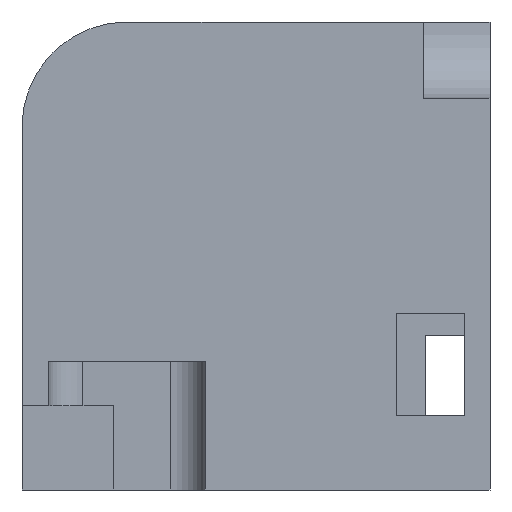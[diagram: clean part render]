
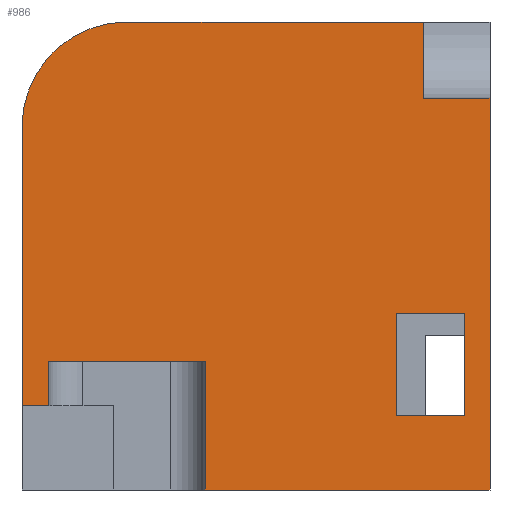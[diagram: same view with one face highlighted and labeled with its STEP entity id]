
A CAD part, left-side view. The second image highlights one B-rep face of the part: STEP entity #986.
In plain terms, the highlighted planar face has unit normal (-1, 0, 0).
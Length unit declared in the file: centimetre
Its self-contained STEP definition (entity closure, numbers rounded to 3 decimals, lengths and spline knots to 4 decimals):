
#1 = CARTESIAN_POINT ( 'NONE',  ( 0., 0., 0. ) ) ;
#5 = LINE ( 'NONE', #402, #1062 ) ;
#7 = CARTESIAN_POINT ( 'NONE',  ( 0., 608.5618, 275.1662 ) ) ;
#10 = CARTESIAN_POINT ( 'NONE',  ( 0., 1000., 1000. ) ) ;
#21 = VECTOR ( 'NONE', #781, 100. ) ;
#27 = PLANE ( 'NONE',  #795 ) ;
#30 = LINE ( 'NONE', #805, #226 ) ;
#45 = ORIENTED_EDGE ( 'NONE', *, *, #700, .T. ) ;
#54 = VERTEX_POINT ( 'NONE', #482 ) ;
#58 = VERTEX_POINT ( 'NONE', #1 ) ;
#84 = VECTOR ( 'NONE', #463, 100. ) ;
#131 = LINE ( 'NONE', #710, #750 ) ;
#135 = EDGE_CURVE ( 'NONE', #54, #1263, #510, .T. ) ;
#141 = EDGE_CURVE ( 'NONE', #961, #575, #5, .T. ) ;
#186 = LINE ( 'NONE', #387, #999 ) ;
#190 = EDGE_CURVE ( 'NONE', #831, #248, #711, .T. ) ;
#203 = LINE ( 'NONE', #10, #494 ) ;
#214 = CARTESIAN_POINT ( 'NONE',  ( 0., 54.326, 377.0106 ) ) ;
#218 = EDGE_CURVE ( 'NONE', #248, #58, #1000, .T. ) ;
#221 = FACE_OUTER_BOUND ( 'NONE', #837, .T. ) ;
#226 = VECTOR ( 'NONE', #788, 100. ) ;
#228 = LINE ( 'NONE', #1005, #1182 ) ;
#231 = LINE ( 'NONE', #214, #1181 ) ;
#237 = DIRECTION ( 'NONE',  ( 1., 0., 0. ) ) ;
#245 = EDGE_CURVE ( 'NONE', #575, #54, #900, .T. ) ;
#248 = VERTEX_POINT ( 'NONE', #1102 ) ;
#291 = VERTEX_POINT ( 'NONE', #1115 ) ;
#311 = VECTOR ( 'NONE', #317, 100. ) ;
#317 = DIRECTION ( 'NONE',  ( 0., -1., 0. ) ) ;
#319 = CARTESIAN_POINT ( 'NONE',  ( 0., 775.9207, 775.9207 ) ) ;
#343 = FACE_BOUND ( 'NONE', #1053, .T. ) ;
#354 = CARTESIAN_POINT ( 'NONE',  ( 0., 775.9207, 1000. ) ) ;
#369 = EDGE_CURVE ( 'NONE', #654, #58, #931, .T. ) ;
#372 = ORIENTED_EDGE ( 'NONE', *, *, #135, .F. ) ;
#379 = CARTESIAN_POINT ( 'NONE',  ( 0., 943.5483, 179.5872 ) ) ;
#387 = CARTESIAN_POINT ( 'NONE',  ( 0., 1000., 1000. ) ) ;
#402 = CARTESIAN_POINT ( 'NONE',  ( 0., 200.1869, 158.6874 ) ) ;
#437 = ORIENTED_EDGE ( 'NONE', *, *, #218, .T. ) ;
#439 = DIRECTION ( 'NONE',  ( 0., 0., -1. ) ) ;
#454 = CARTESIAN_POINT ( 'NONE',  ( 0., 0., 1000. ) ) ;
#462 = ORIENTED_EDGE ( 'NONE', *, *, #820, .F. ) ;
#463 = DIRECTION ( 'NONE',  ( 0., 1., 0. ) ) ;
#465 = EDGE_CURVE ( 'NONE', #1067, #488, #186, .T. ) ;
#468 = ORIENTED_EDGE ( 'NONE', *, *, #764, .T. ) ;
#482 = CARTESIAN_POINT ( 'NONE',  ( 0., 54.326, 158.6874 ) ) ;
#485 = CARTESIAN_POINT ( 'NONE',  ( 0., 142.3264, 1000. ) ) ;
#488 = VERTEX_POINT ( 'NONE', #485 ) ;
#492 = ORIENTED_EDGE ( 'NONE', *, *, #465, .F. ) ;
#494 = VECTOR ( 'NONE', #1180, 100. ) ;
#505 = LINE ( 'NONE', #940, #614 ) ;
#507 = VERTEX_POINT ( 'NONE', #379 ) ;
#510 = LINE ( 'NONE', #993, #21 ) ;
#534 = CARTESIAN_POINT ( 'NONE',  ( 0., 200.1869, 377.0106 ) ) ;
#542 = DIRECTION ( 'NONE',  ( 0., 0., -1. ) ) ;
#555 = LINE ( 'NONE', #635, #84 ) ;
#559 = ORIENTED_EDGE ( 'NONE', *, *, #190, .T. ) ;
#568 = CARTESIAN_POINT ( 'NONE',  ( 0., 54.326, 377.0106 ) ) ;
#575 = VERTEX_POINT ( 'NONE', #938 ) ;
#608 = DIRECTION ( 'NONE',  ( 0., 0., -1. ) ) ;
#614 = VECTOR ( 'NONE', #683, 100. ) ;
#620 = DIRECTION ( 'NONE',  ( -1., 0., 0. ) ) ;
#623 = DIRECTION ( 'NONE',  ( 0., -1., 0. ) ) ;
#631 = CIRCLE ( 'NONE', #714, 224.0793 ) ;
#635 = CARTESIAN_POINT ( 'NONE',  ( 0., 804.3011, 179.5872 ) ) ;
#636 = VERTEX_POINT ( 'NONE', #1089 ) ;
#654 = VERTEX_POINT ( 'NONE', #1099 ) ;
#658 = EDGE_CURVE ( 'NONE', #1263, #961, #231, .T. ) ;
#683 = DIRECTION ( 'NONE',  ( 0., 1., 0. ) ) ;
#698 = EDGE_CURVE ( 'NONE', #654, #1233, #30, .T. ) ;
#700 = EDGE_CURVE ( 'NONE', #1067, #1230, #631, .T. ) ;
#710 = CARTESIAN_POINT ( 'NONE',  ( 0., 943.5483, 275.1662 ) ) ;
#711 = LINE ( 'NONE', #7, #1265 ) ;
#713 = VECTOR ( 'NONE', #623, 100. ) ;
#714 = AXIS2_PLACEMENT_3D ( 'NONE', #319, #620, #1008 ) ;
#750 = VECTOR ( 'NONE', #910, 100. ) ;
#751 = ORIENTED_EDGE ( 'NONE', *, *, #245, .F. ) ;
#764 = EDGE_CURVE ( 'NONE', #1230, #291, #203, .T. ) ;
#768 = ORIENTED_EDGE ( 'NONE', *, *, #369, .F. ) ;
#780 = DIRECTION ( 'NONE',  ( 0., 1., 0. ) ) ;
#781 = DIRECTION ( 'NONE',  ( 0., 0., 1. ) ) ;
#788 = DIRECTION ( 'NONE',  ( 0., 1., 0. ) ) ;
#795 = AXIS2_PLACEMENT_3D ( 'NONE', #1113, #237, #608 ) ;
#805 = CARTESIAN_POINT ( 'NONE',  ( 0., 142.3264, 837.2623 ) ) ;
#820 = EDGE_CURVE ( 'NONE', #831, #636, #505, .T. ) ;
#831 = VERTEX_POINT ( 'NONE', #881 ) ;
#837 = EDGE_LOOP ( 'NONE', ( #468, #1154, #915, #462, #559, #437, #768, #1140, #1051, #492, #45 ) ) ;
#871 = ORIENTED_EDGE ( 'NONE', *, *, #658, .F. ) ;
#881 = CARTESIAN_POINT ( 'NONE',  ( 0., 608.5618, 275.1662 ) ) ;
#900 = LINE ( 'NONE', #1177, #311 ) ;
#910 = DIRECTION ( 'NONE',  ( 0., 0., 1. ) ) ;
#911 = DIRECTION ( 'NONE',  ( 0., 0., -1. ) ) ;
#915 = ORIENTED_EDGE ( 'NONE', *, *, #1036, .T. ) ;
#931 = LINE ( 'NONE', #454, #1217 ) ;
#938 = CARTESIAN_POINT ( 'NONE',  ( 0., 200.1869, 158.6874 ) ) ;
#940 = CARTESIAN_POINT ( 'NONE',  ( 0., 1000., 275.1662 ) ) ;
#961 = VERTEX_POINT ( 'NONE', #534 ) ;
#986 = ADVANCED_FACE ( 'NONE', ( #343, #221 ), #27, .F. ) ;
#993 = CARTESIAN_POINT ( 'NONE',  ( 0., 54.326, 158.6874 ) ) ;
#999 = VECTOR ( 'NONE', #1139, 100. ) ;
#1000 = LINE ( 'NONE', #1097, #713 ) ;
#1005 = CARTESIAN_POINT ( 'NONE',  ( 0., 142.3264, 1000. ) ) ;
#1008 = DIRECTION ( 'NONE',  ( 0., 0., -1. ) ) ;
#1036 = EDGE_CURVE ( 'NONE', #507, #636, #131, .T. ) ;
#1051 = ORIENTED_EDGE ( 'NONE', *, *, #1057, .F. ) ;
#1053 = EDGE_LOOP ( 'NONE', ( #372, #751, #1132, #871 ) ) ;
#1057 = EDGE_CURVE ( 'NONE', #488, #1233, #228, .T. ) ;
#1062 = VECTOR ( 'NONE', #1193, 100. ) ;
#1067 = VERTEX_POINT ( 'NONE', #354 ) ;
#1069 = CARTESIAN_POINT ( 'NONE',  ( 0., 142.3264, 837.2623 ) ) ;
#1089 = CARTESIAN_POINT ( 'NONE',  ( 0., 943.5483, 275.1662 ) ) ;
#1097 = CARTESIAN_POINT ( 'NONE',  ( 0., 1000., 0. ) ) ;
#1099 = CARTESIAN_POINT ( 'NONE',  ( 0., 0., 837.2623 ) ) ;
#1102 = CARTESIAN_POINT ( 'NONE',  ( 0., 608.5618, 0. ) ) ;
#1113 = CARTESIAN_POINT ( 'NONE',  ( 0., 1000., 1000. ) ) ;
#1115 = CARTESIAN_POINT ( 'NONE',  ( 0., 1000., 179.5872 ) ) ;
#1132 = ORIENTED_EDGE ( 'NONE', *, *, #141, .F. ) ;
#1139 = DIRECTION ( 'NONE',  ( 0., -1., 0. ) ) ;
#1140 = ORIENTED_EDGE ( 'NONE', *, *, #698, .T. ) ;
#1154 = ORIENTED_EDGE ( 'NONE', *, *, #1169, .F. ) ;
#1169 = EDGE_CURVE ( 'NONE', #507, #291, #555, .T. ) ;
#1177 = CARTESIAN_POINT ( 'NONE',  ( 0., 54.326, 158.6874 ) ) ;
#1180 = DIRECTION ( 'NONE',  ( 0., 0., -1. ) ) ;
#1181 = VECTOR ( 'NONE', #780, 100. ) ;
#1182 = VECTOR ( 'NONE', #542, 100. ) ;
#1193 = DIRECTION ( 'NONE',  ( 0., 0., -1. ) ) ;
#1217 = VECTOR ( 'NONE', #439, 100. ) ;
#1230 = VERTEX_POINT ( 'NONE', #1259 ) ;
#1233 = VERTEX_POINT ( 'NONE', #1069 ) ;
#1259 = CARTESIAN_POINT ( 'NONE',  ( 0., 1000., 775.9207 ) ) ;
#1263 = VERTEX_POINT ( 'NONE', #568 ) ;
#1265 = VECTOR ( 'NONE', #911, 100. ) ;
